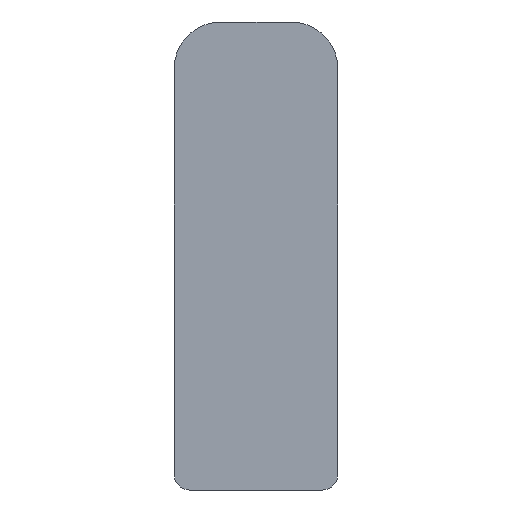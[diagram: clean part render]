
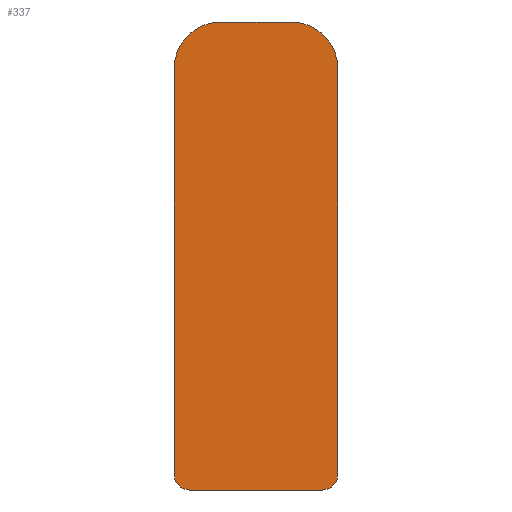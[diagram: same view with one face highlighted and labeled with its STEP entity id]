
A CAD part, left-side view. The second image highlights one B-rep face of the part: STEP entity #337.
In plain terms, the highlighted planar face has unit normal (-1, 0, 0).
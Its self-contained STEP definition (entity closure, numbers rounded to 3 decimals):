
#2 = VECTOR ( 'NONE', #305, 1000. ) ;
#4 = LINE ( 'NONE', #306, #2 ) ;
#7 = ORIENTED_EDGE ( 'NONE', *, *, #111, .T. ) ;
#8 = CIRCLE ( 'NONE', #107, 3. ) ;
#11 = ORIENTED_EDGE ( 'NONE', *, *, #134, .T. ) ;
#12 = ORIENTED_EDGE ( 'NONE', *, *, #132, .T. ) ;
#22 = VECTOR ( 'NONE', #324, 1000. ) ;
#23 = LINE ( 'NONE', #325, #22 ) ;
#33 = EDGE_LOOP ( 'NONE', ( #80, #81, #82, #83, #84, #7, #12, #11 ) ) ;
#38 = CIRCLE ( 'NONE', #109, 3. ) ;
#43 = VECTOR ( 'NONE', #273, 1000. ) ;
#44 = LINE ( 'NONE', #276, #43 ) ;
#80 = ORIENTED_EDGE ( 'NONE', *, *, #114, .T. ) ;
#81 = ORIENTED_EDGE ( 'NONE', *, *, #118, .T. ) ;
#82 = ORIENTED_EDGE ( 'NONE', *, *, #121, .T. ) ;
#83 = ORIENTED_EDGE ( 'NONE', *, *, #124, .T. ) ;
#84 = ORIENTED_EDGE ( 'NONE', *, *, #127, .T. ) ;
#96 = AXIS2_PLACEMENT_3D ( 'NONE', #224, #223, #221 ) ;
#103 = AXIS2_PLACEMENT_3D ( 'NONE', #279, #278, #277 ) ;
#105 = AXIS2_PLACEMENT_3D ( 'NONE', #296, #295, #294 ) ;
#107 = AXIS2_PLACEMENT_3D ( 'NONE', #316, #315, #314 ) ;
#109 = AXIS2_PLACEMENT_3D ( 'NONE', #222, #220, #216 ) ;
#111 = EDGE_CURVE ( 'NONE', #287, #328, #44, .T. ) ;
#114 = EDGE_CURVE ( 'NONE', #313, #310, #38, .T. ) ;
#118 = EDGE_CURVE ( 'NONE', #310, #283, #23, .T. ) ;
#121 = EDGE_CURVE ( 'NONE', #283, #280, #8, .T. ) ;
#124 = EDGE_CURVE ( 'NONE', #280, #332, #4, .T. ) ;
#127 = EDGE_CURVE ( 'NONE', #332, #287, #168, .T. ) ;
#132 = EDGE_CURVE ( 'NONE', #328, #297, #139, .T. ) ;
#134 = EDGE_CURVE ( 'NONE', #297, #313, #148, .T. ) ;
#139 = CIRCLE ( 'NONE', #103, 1. ) ;
#148 = LINE ( 'NONE', #272, #173 ) ;
#155 = FACE_OUTER_BOUND ( 'NONE', #33, .T. ) ;
#168 = CIRCLE ( 'NONE', #105, 1. ) ;
#173 = VECTOR ( 'NONE', #271, 1000. ) ;
#216 = DIRECTION ( 'NONE',  ( 0., 0., 1. ) ) ;
#220 = DIRECTION ( 'NONE',  ( -1., 0., 0. ) ) ;
#221 = DIRECTION ( 'NONE',  ( 0., 0., 1. ) ) ;
#222 = CARTESIAN_POINT ( 'NONE',  ( -478.25, -2.25, 27. ) ) ;
#223 = DIRECTION ( 'NONE',  ( -1., 0., 0. ) ) ;
#224 = CARTESIAN_POINT ( 'NONE',  ( -478.25, -2.25, 27. ) ) ;
#226 = PLANE ( 'NONE',  #96 ) ;
#247 = CARTESIAN_POINT ( 'NONE',  ( -478.25, 5.25, 1. ) ) ;
#249 = CARTESIAN_POINT ( 'NONE',  ( -478.25, -4.25, 0. ) ) ;
#252 = CARTESIAN_POINT ( 'NONE',  ( -478.25, -5.25, 27. ) ) ;
#253 = CARTESIAN_POINT ( 'NONE',  ( -478.25, -2.25, 30. ) ) ;
#257 = CARTESIAN_POINT ( 'NONE',  ( -478.25, -5.25, 1. ) ) ;
#260 = CARTESIAN_POINT ( 'NONE',  ( -478.25, 4.25, 0. ) ) ;
#261 = CARTESIAN_POINT ( 'NONE',  ( -478.25, 2.25, 30. ) ) ;
#262 = CARTESIAN_POINT ( 'NONE',  ( -478.25, 5.25, 27. ) ) ;
#271 = DIRECTION ( 'NONE',  ( 0., 0., 1. ) ) ;
#272 = CARTESIAN_POINT ( 'NONE',  ( -478.25, -5.25, 1. ) ) ;
#273 = DIRECTION ( 'NONE',  ( 0., -1., 0. ) ) ;
#276 = CARTESIAN_POINT ( 'NONE',  ( -478.25, -4.25, 0. ) ) ;
#277 = DIRECTION ( 'NONE',  ( 0., 0., -1. ) ) ;
#278 = DIRECTION ( 'NONE',  ( -1., 0., 0. ) ) ;
#279 = CARTESIAN_POINT ( 'NONE',  ( -478.25, -4.25, 1. ) ) ;
#280 = VERTEX_POINT ( 'NONE', #262 ) ;
#283 = VERTEX_POINT ( 'NONE', #261 ) ;
#287 = VERTEX_POINT ( 'NONE', #260 ) ;
#294 = DIRECTION ( 'NONE',  ( 0., 0., -1. ) ) ;
#295 = DIRECTION ( 'NONE',  ( -1., 0., 0. ) ) ;
#296 = CARTESIAN_POINT ( 'NONE',  ( -478.25, 4.25, 1. ) ) ;
#297 = VERTEX_POINT ( 'NONE', #257 ) ;
#305 = DIRECTION ( 'NONE',  ( 0., 0., -1. ) ) ;
#306 = CARTESIAN_POINT ( 'NONE',  ( -478.25, 5.25, 1. ) ) ;
#310 = VERTEX_POINT ( 'NONE', #253 ) ;
#313 = VERTEX_POINT ( 'NONE', #252 ) ;
#314 = DIRECTION ( 'NONE',  ( 0., 0., -1. ) ) ;
#315 = DIRECTION ( 'NONE',  ( -1., 0., 0. ) ) ;
#316 = CARTESIAN_POINT ( 'NONE',  ( -478.25, 2.25, 27. ) ) ;
#324 = DIRECTION ( 'NONE',  ( 0., 1., 0. ) ) ;
#325 = CARTESIAN_POINT ( 'NONE',  ( -478.25, -2.25, 30. ) ) ;
#328 = VERTEX_POINT ( 'NONE', #249 ) ;
#332 = VERTEX_POINT ( 'NONE', #247 ) ;
#337 = ADVANCED_FACE ( 'NONE', ( #155 ), #226, .T. ) ;
